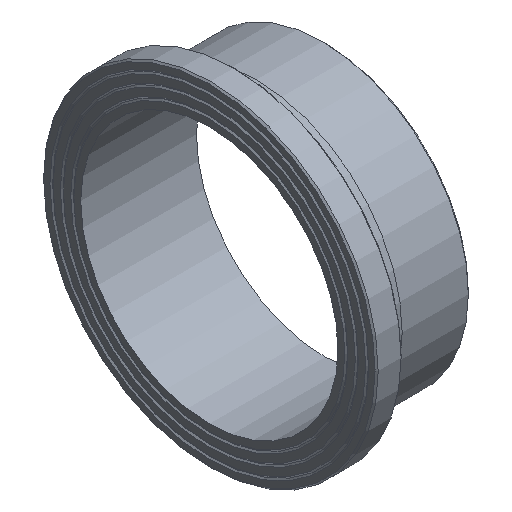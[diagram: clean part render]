
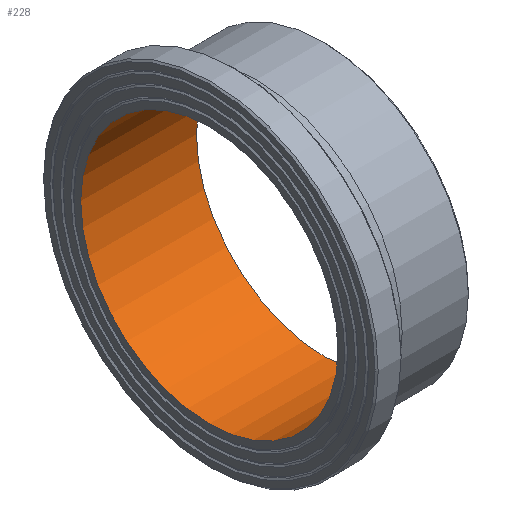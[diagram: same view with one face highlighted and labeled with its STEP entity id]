
A CAD part, isometric view. The second image highlights one B-rep face of the part: STEP entity #228.
In plain terms, the highlighted cylindrical face has radius 123.4 mm (diameter 246.8 mm), a full revolution.
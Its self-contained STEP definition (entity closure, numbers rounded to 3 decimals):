
#33=CYLINDRICAL_SURFACE('',#274,123.4);
#50=ORIENTED_EDGE('',*,*,#79,.F.);
#51=ORIENTED_EDGE('',*,*,#76,.T.);
#76=EDGE_CURVE('',#96,#96,#116,.T.);
#79=EDGE_CURVE('',#99,#99,#119,.T.);
#96=VERTEX_POINT('',#383);
#99=VERTEX_POINT('',#390);
#116=CIRCLE('',#257,123.4);
#119=CIRCLE('',#261,123.4);
#150=EDGE_LOOP('',(#50));
#151=EDGE_LOOP('',(#51));
#190=FACE_BOUND('',#150,.T.);
#191=FACE_BOUND('',#151,.T.);
#228=ADVANCED_FACE('',(#190,#191),#33,.F.);
#257=AXIS2_PLACEMENT_3D('',#382,#303,#304);
#261=AXIS2_PLACEMENT_3D('',#389,#311,#312);
#274=AXIS2_PLACEMENT_3D('',#410,#337,#338);
#303=DIRECTION('',(-1.,0.,0.));
#304=DIRECTION('',(0.,0.,1.));
#311=DIRECTION('',(-1.,0.,0.));
#312=DIRECTION('',(0.,0.,1.));
#337=DIRECTION('',(-1.,0.,0.));
#338=DIRECTION('',(0.,0.,1.));
#382=CARTESIAN_POINT('',(0.,0.,0.));
#383=CARTESIAN_POINT('',(0.,0.,123.4));
#389=CARTESIAN_POINT('',(111.,0.,0.));
#390=CARTESIAN_POINT('',(111.,0.,123.4));
#410=CARTESIAN_POINT('',(60.,0.,0.));
